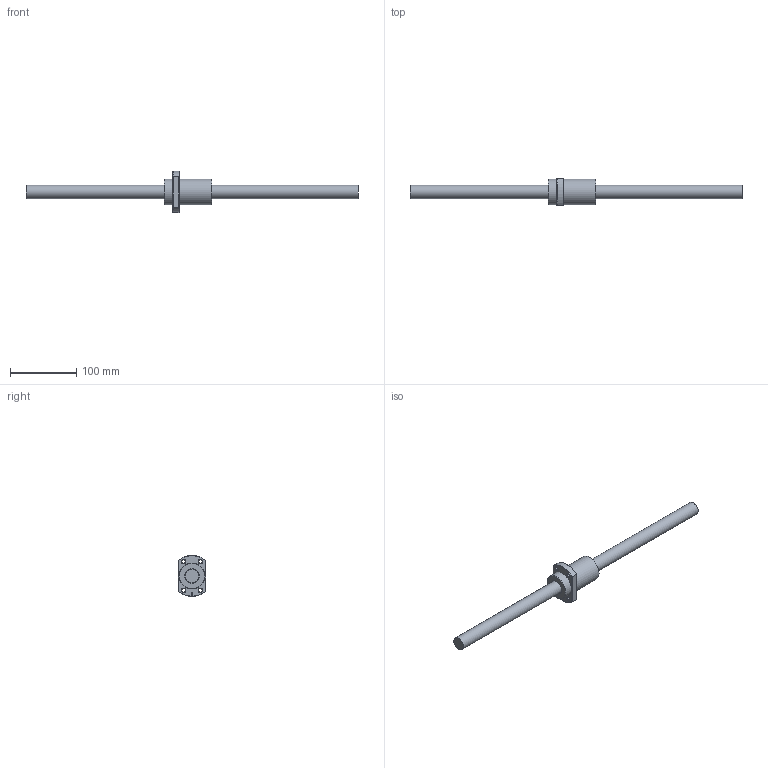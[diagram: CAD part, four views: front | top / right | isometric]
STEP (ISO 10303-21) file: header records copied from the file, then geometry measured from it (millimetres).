
FILE_DESCRIPTION (( 'STEP AP203' ), '1' );
FILE_NAME ('SFY02020-5.6.step', '2024-05-21T08:56:43', ( '' ), ( '' ), 'SwSTEP 2.0', 'SolidWorks 2022', '' );
FILE_SCHEMA (( 'CONFIG_CONTROL_DESIGN' ));
Length unit declared in the file: millimetre
Products named in the file (1): SFY02020-5.6
Bounding box: 500 x 41 x 61.9 mm (x, y, z)
Volume: 226416.4 mm3; surface area: 50896.2 mm2
Topology: 2 solids, 2 shells, 50 faces, 129 edges, 84 vertices
Faces by surface type: cylinder 17, plane 13, cone 9, torus 6, bspline 5
Full cylindrical faces by diameter (mm): 2.5 x1, 5 x5, 5.5 x4, 20 x1, 21.8 x1, 39 x2
Entity records: 3034 total; most frequent: CARTESIAN_POINT 2084, DIRECTION 168, ORIENTED_EDGE 156, EDGE_LOOP 80, EDGE_CURVE 78, AXIS2_PLACEMENT_3D 76, VERTEX_POINT 62, FACE_OUTER_BOUND 57
